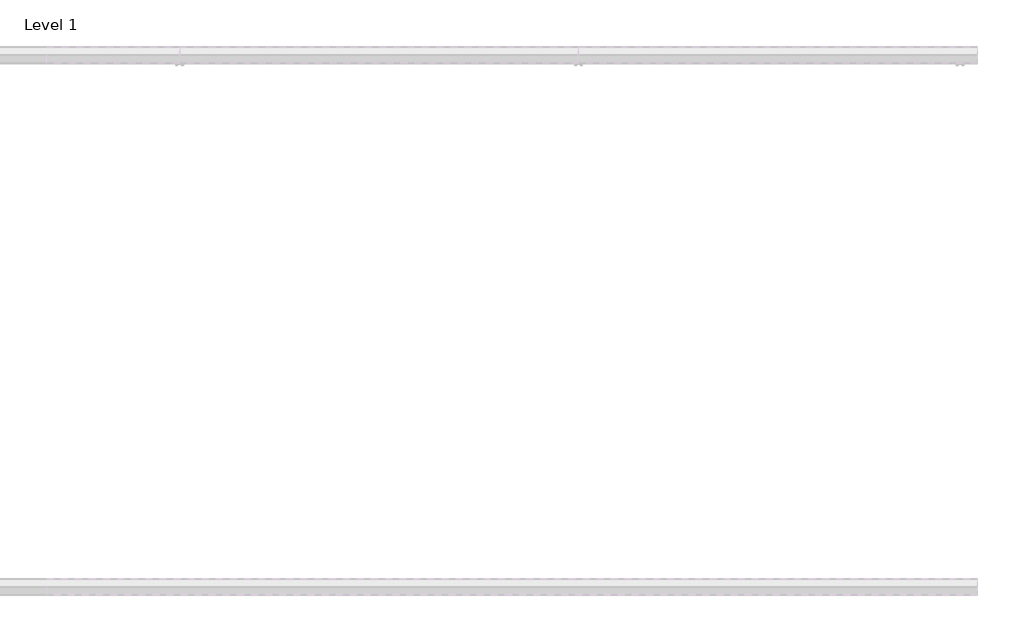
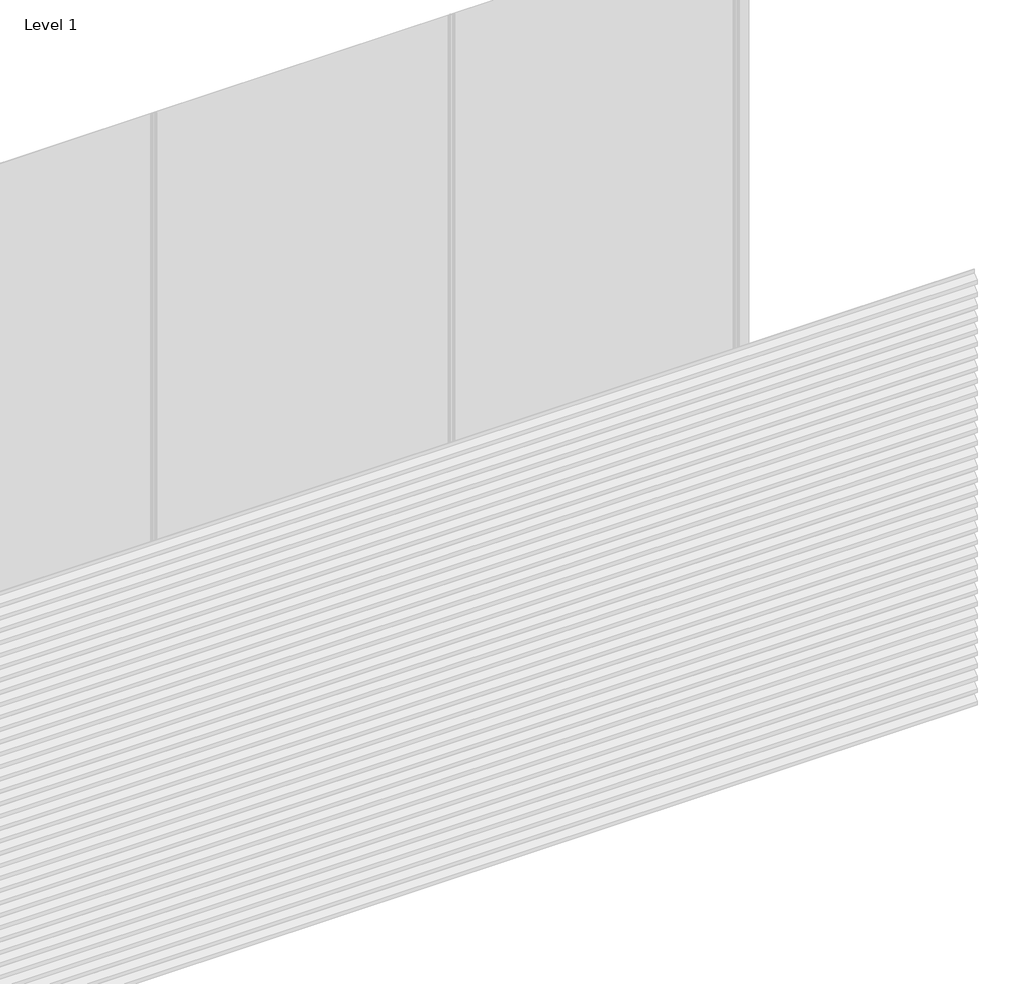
# One storey, part 35 of 35: 4 proxies.
"""IFC4 building model written with IfcOpenShell, lengths in millimetres."""

from ifc_helpers import new_model, si_unit, frame, origin, place, context, project, spatial, polyline, outline, extrude, element, save

model = new_model("IFC4")

# Units and contexts
model_context = context("Model", 3, world=origin())
ifc_project = project(units=[si_unit("LENGTHUNIT", "METRE", prefix="MILLI")], contexts=[model_context])

# Site, building, storey
site = spatial("IfcSite", under=ifc_project)
building = spatial("IfcBuilding", under=site)
storey = spatial("IfcBuildingStorey", under=building, Name="Level 1", Elevation=0.0)

# Proxies
placement = place(None, origin())
element("IfcBuildingElementProxy", 1, Name="Wall Sweeps", at=placement, inside=storey, context=model_context, shape_type="SweptSolid", body=[
    extrude(outline(polyline([(64.0, 210.0), (64.0, 190.0), (62.75, 190.0), (62.75, 209.4342979), (31.8861061, 242.531772), (3.3, 222.4392868), (3.3, 203.6629874), (2.0, 202.8506572), (2.0, 223.1145472), (31.462475, 243.823011), (31.462475, 264.0), (32.8227376, 264.0), (32.8227376, 243.4335207), (64.0, 210.0)])), frame((4500.0, 0.0, 0.0), z_axis=(1.0, 0.0, 0.0), x_axis=(0.0, 1.0, 0.0)), (0.0, 0.0, 1.0), 1500.0),
])
element("IfcBuildingElementProxy", 2, Name="Wall Sweeps", at=placement, inside=storey, context=model_context, shape_type="SweptSolid", body=[
    extrude(outline(polyline([(64.0, 144.0), (64.0, 124.0), (62.75, 124.0), (62.75, 143.4342979), (31.8861061, 176.531772), (3.3, 156.4392868), (3.3, 137.6629874), (2.0, 136.8506572), (2.0, 157.1145472), (31.462475, 177.823011), (31.462475, 198.0), (32.8227376, 198.0), (32.8227376, 177.4335207), (64.0, 144.0)])), frame((4500.0, 0.0, 0.0), z_axis=(1.0, 0.0, 0.0), x_axis=(0.0, 1.0, 0.0)), (0.0, 0.0, 1.0), 1500.0),
])
element("IfcBuildingElementProxy", 3, Name="Wall Sweeps", at=placement, inside=storey, context=model_context, shape_type="SweptSolid", body=[
    extrude(outline(polyline([(64.0, 78.0), (64.0, 58.0), (62.75, 58.0), (62.75, 77.4342979), (31.8861061, 110.531772), (3.3, 90.4392868), (3.3, 71.6629874), (2.0, 70.8506572), (2.0, 91.1145472), (31.462475, 111.823011), (31.462475, 132.0), (32.8227376, 132.0), (32.8227376, 111.4335207), (64.0, 78.0)])), frame((4500.0, 0.0, 0.0), z_axis=(1.0, 0.0, 0.0), x_axis=(0.0, 1.0, 0.0)), (0.0, 0.0, 1.0), 1500.0),
])
element("IfcBuildingElementProxy", 4, Name="Wall Sweeps", at=placement, inside=storey, context=model_context, shape_type="SweptSolid", body=[
    extrude(outline(polyline([(64.0, 12.0), (64.0, -8.0), (62.75, -8.0), (62.75, 11.4342979), (31.8861061, 44.531772), (3.3, 24.4392868), (3.3, 5.6629874), (2.0, 4.8506572), (2.0, 25.1145472), (31.462475, 45.823011), (31.462475, 66.0), (32.8227376, 66.0), (32.8227376, 45.4335207), (64.0, 12.0)])), frame((4500.0, 0.0, 0.0), z_axis=(1.0, 0.0, 0.0), x_axis=(0.0, 1.0, 0.0)), (0.0, 0.0, 1.0), 1500.0),
])

save(model, "model.ifc")
